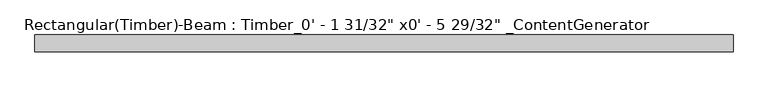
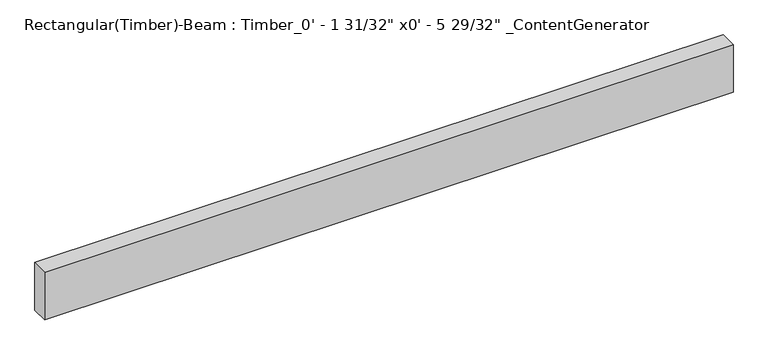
"""IFC4 building model written with IfcOpenShell, lengths in millimetres: beam geometry."""

from ifc_helpers import new_model, si_unit, frame, origin, place, context, project, spatial, polyline, outline, extrude, source, transform, mapped, element, save


def beam_4a104cc5(model_context):
    return source(origin(), model_context, "Body", "SweptSolid", [
        extrude(outline(polyline([(1039.8125, 25.4), (1039.8125, -25.4), (-1039.8125, -25.4), (-1039.8125, 25.4), (1039.8125, 25.4)])), frame((0.0, 0.0, -76.2), z_axis=(0.0, 0.0, 1.0), x_axis=(1.0, 0.0, 0.0)), (0.0, 0.0, 1.0), 152.4),
    ])


if __name__ == "__main__":
    model = new_model("IFC4")
    model_context = context("Model", 3, world=origin())
    ifc_project = project(units=[si_unit("LENGTHUNIT", "METRE", prefix="MILLI")], contexts=[model_context])
    site = spatial("IfcSite", under=ifc_project)
    building = spatial("IfcBuilding", under=site)
    placement = place(None, origin())
    beam_shape = beam_4a104cc5(model_context)
    element("IfcBeam", 1, ObjectType="Rectangular(Timber)-Beam : Timber_0' - 1 31/32\" x0' - 5 29/32\" _ContentGenerator", at=placement, inside=building, context=model_context, shape_type="MappedRepresentation", body=[
        mapped(beam_shape, transform((0.0, 0.0, 0.0), x_axis=(1.0, 0.0, 0.0), y_axis=(0.0, 1.0, 0.0), z_axis=(0.0, 0.0, 1.0))),
    ])
    save(model, "model.ifc")
